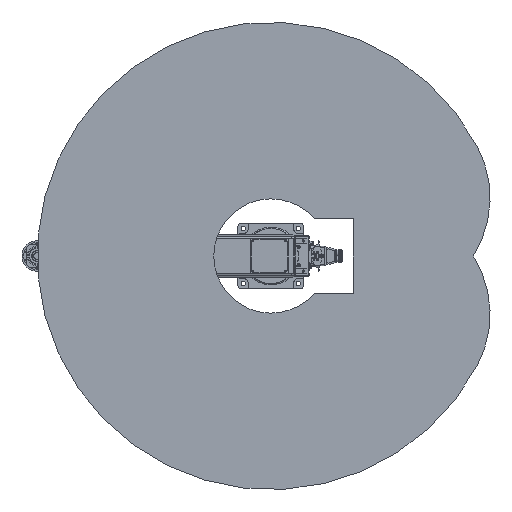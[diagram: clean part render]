
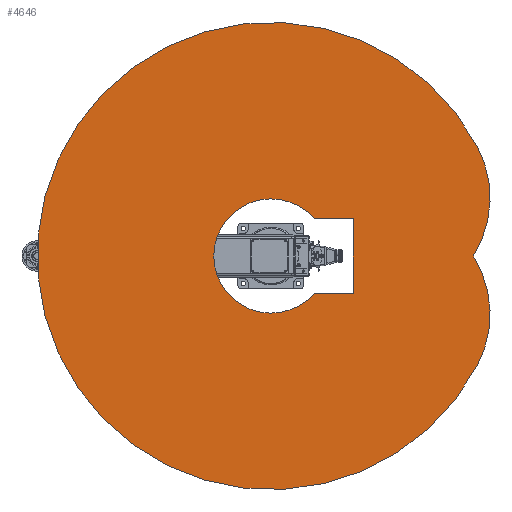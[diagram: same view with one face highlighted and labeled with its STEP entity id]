
A CAD part, front view. The second image highlights one B-rep face of the part: STEP entity #4646.
In plain terms, the highlighted planar face has unit normal (0, -1, 0).
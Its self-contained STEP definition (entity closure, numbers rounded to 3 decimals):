
#4646 = ADVANCED_FACE( '', ( #11029, #11030 ), #11031, .F. );
#11029 = FACE_BOUND( '', #19977, .T. );
#11030 = FACE_OUTER_BOUND( '', #19978, .T. );
#11031 = PLANE( '', #19979 );
#19977 = EDGE_LOOP( '', ( #33952, #33953, #33954, #33955 ) );
#19978 = EDGE_LOOP( '', ( #33956, #33957, #33958 ) );
#19979 = AXIS2_PLACEMENT_3D( '', #33959, #33960, #33961 );
#33952 = ORIENTED_EDGE( '', *, *, #51034, .T. );
#33953 = ORIENTED_EDGE( '', *, *, #51035, .T. );
#33954 = ORIENTED_EDGE( '', *, *, #50689, .T. );
#33955 = ORIENTED_EDGE( '', *, *, #51036, .T. );
#33956 = ORIENTED_EDGE( '', *, *, #51037, .F. );
#33957 = ORIENTED_EDGE( '', *, *, #51038, .F. );
#33958 = ORIENTED_EDGE( '', *, *, #48355, .F. );
#33959 = CARTESIAN_POINT( '', ( 105.631, 0., 198.663 ) );
#33960 = DIRECTION( '', ( 0., 1., 0. ) );
#33961 = DIRECTION( '', ( 0., 0., 1. ) );
#48355 = EDGE_CURVE( '', #57587, #57588, #57589, .T. );
#50689 = EDGE_CURVE( '', #61323, #61324, #61325, .T. );
#51034 = EDGE_CURVE( '', #61839, #61840, #61841, .T. );
#51035 = EDGE_CURVE( '', #61840, #61323, #61842, .T. );
#51036 = EDGE_CURVE( '', #61324, #61839, #61843, .T. );
#51037 = EDGE_CURVE( '', #61844, #57587, #61845, .T. );
#51038 = EDGE_CURVE( '', #57588, #61844, #61846, .T. );
#57587 = VERTEX_POINT( '', #71092 );
#57588 = VERTEX_POINT( '', #71093 );
#57589 = CIRCLE( '', #71094, 850. );
#61323 = VERTEX_POINT( '', #77893 );
#61324 = VERTEX_POINT( '', #77894 );
#61325 = LINE( '', #77895, #77896 );
#61839 = VERTEX_POINT( '', #78819 );
#61840 = VERTEX_POINT( '', #78820 );
#61841 = LINE( '', #78821, #78822 );
#61842 = CIRCLE( '', #78823, 207.8 );
#61843 = LINE( '', #78824, #78825 );
#61844 = VERTEX_POINT( '', #78826 );
#61845 = CIRCLE( '', #78827, 400. );
#61846 = CIRCLE( '', #78828, 400. );
#71092 = CARTESIAN_POINT( '', ( 399.051, 0., 750.505 ) );
#71093 = CARTESIAN_POINT( '', ( -399.051, 0., 750.505 ) );
#71094 = AXIS2_PLACEMENT_3D( '', #88630, #88631, #88632 );
#77893 = CARTESIAN_POINT( '', ( -135., 0., 157.974 ) );
#77894 = CARTESIAN_POINT( '', ( -135., 0., 300. ) );
#77895 = CARTESIAN_POINT( '', ( -135., 0., 157.974 ) );
#77896 = VECTOR( '', #91418, 1000. );
#78819 = CARTESIAN_POINT( '', ( 135., 0., 300. ) );
#78820 = CARTESIAN_POINT( '', ( 135., 0., 157.974 ) );
#78821 = CARTESIAN_POINT( '', ( 135., 0., 300. ) );
#78822 = VECTOR( '', #91818, 1000. );
#78823 = AXIS2_PLACEMENT_3D( '', #91819, #91820, #91821 );
#78824 = CARTESIAN_POINT( '', ( -135., 0., 300. ) );
#78825 = VECTOR( '', #91822, 1000. );
#78826 = CARTESIAN_POINT( '', ( 0., 0., 736.985 ) );
#78827 = AXIS2_PLACEMENT_3D( '', #91823, #91824, #91825 );
#78828 = AXIS2_PLACEMENT_3D( '', #91826, #91827, #91828 );
#88630 = CARTESIAN_POINT( '', ( 0., 0., 0. ) );
#88631 = DIRECTION( '', ( 0., 1., 0. ) );
#88632 = DIRECTION( '', ( 1., 0., 0. ) );
#91418 = DIRECTION( '', ( 0., 0., 1. ) );
#91818 = DIRECTION( '', ( 0., 0., -1. ) );
#91819 = CARTESIAN_POINT( '', ( 0., 0., 0. ) );
#91820 = DIRECTION( '', ( 0., 1., 0. ) );
#91821 = DIRECTION( '', ( 1., 0., 0. ) );
#91822 = DIRECTION( '', ( 1., 0., 0. ) );
#91823 = CARTESIAN_POINT( '', ( 211.262, 0., 397.326 ) );
#91824 = DIRECTION( '', ( 0., 1., 0. ) );
#91825 = DIRECTION( '', ( 1., 0., 0. ) );
#91826 = CARTESIAN_POINT( '', ( -211.262, 0., 397.326 ) );
#91827 = DIRECTION( '', ( 0., 1., 0. ) );
#91828 = DIRECTION( '', ( 1., 0., 0. ) );
